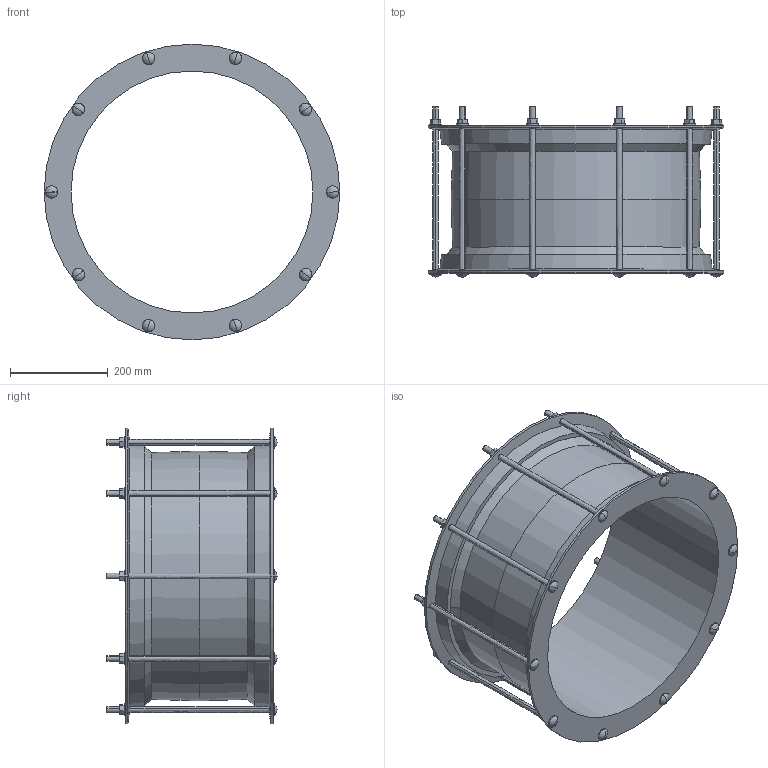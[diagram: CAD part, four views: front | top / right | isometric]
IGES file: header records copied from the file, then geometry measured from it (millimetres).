
Start section:  PTC IGES file: 476_493.igs
Global section: file name: 476_493.igs; native system: Creo Parametric by PTC Inc.; preprocessor: 2016130; author: mfairey; organization: Unknown; date: 20181218.135924; units: millimetre
Bounding box: 605 x 348 x 605 mm (x, y, z)
Surface area: 1408777.5 mm2 (no closed solid volume)
Topology: 0 solids, 0 shells, 216 faces, 1028 edges, 1008 vertices
Faces by surface type: revolution 122, bspline 94
